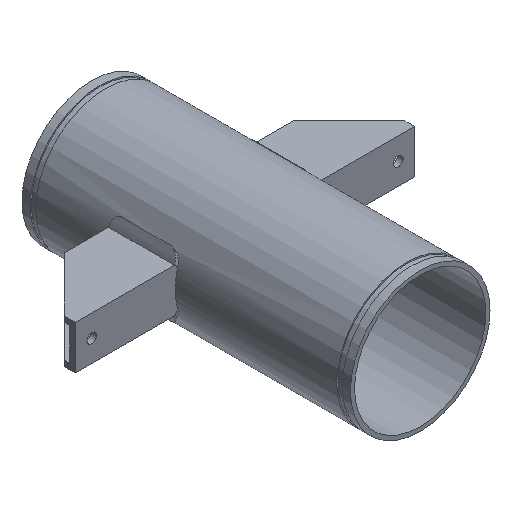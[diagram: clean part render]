
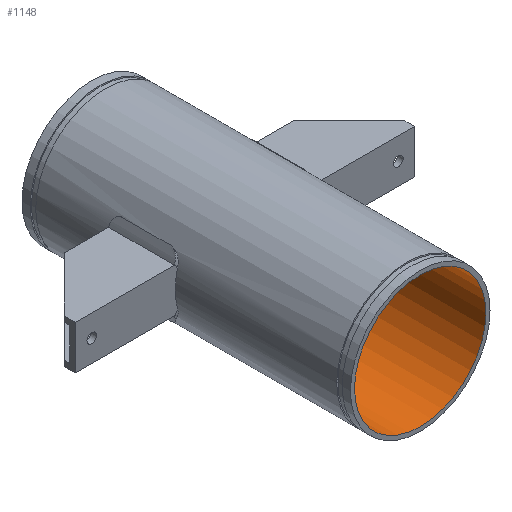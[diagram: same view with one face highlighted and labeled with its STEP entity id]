
A CAD part, isometric view. The second image highlights one B-rep face of the part: STEP entity #1148.
In plain terms, the highlighted cylindrical face has radius 152.4 mm (diameter 304.8 mm), a full revolution.
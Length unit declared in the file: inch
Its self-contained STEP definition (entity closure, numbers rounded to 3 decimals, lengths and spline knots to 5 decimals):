
#116=CIRCLE('',#1251,6.);
#117=CIRCLE('',#1252,6.);
#118=CIRCLE('',#1253,6.);
#119=CIRCLE('',#1254,6.);
#172=FACE_OUTER_BOUND('',#233,.T.);
#233=EDGE_LOOP('',(#927,#928,#929,#930,#931,#932));
#339=LINE('',#2134,#432);
#432=VECTOR('',#1513,6.);
#547=VERTEX_POINT('',#2130);
#548=VERTEX_POINT('',#2131);
#549=VERTEX_POINT('',#2133);
#550=VERTEX_POINT('',#2135);
#689=EDGE_CURVE('',#547,#548,#116,.T.);
#690=EDGE_CURVE('',#548,#549,#339,.T.);
#691=EDGE_CURVE('',#550,#549,#117,.T.);
#692=EDGE_CURVE('',#549,#550,#118,.T.);
#693=EDGE_CURVE('',#548,#547,#119,.T.);
#927=ORIENTED_EDGE('',*,*,#689,.T.);
#928=ORIENTED_EDGE('',*,*,#690,.T.);
#929=ORIENTED_EDGE('',*,*,#691,.F.);
#930=ORIENTED_EDGE('',*,*,#692,.F.);
#931=ORIENTED_EDGE('',*,*,#690,.F.);
#932=ORIENTED_EDGE('',*,*,#693,.T.);
#1047=CYLINDRICAL_SURFACE('',#1250,6.);
#1148=ADVANCED_FACE('',(#172),#1047,.F.);
#1250=AXIS2_PLACEMENT_3D('',#2129,#1509,#1510);
#1251=AXIS2_PLACEMENT_3D('',#2132,#1511,#1512);
#1252=AXIS2_PLACEMENT_3D('',#2136,#1514,#1515);
#1253=AXIS2_PLACEMENT_3D('',#2137,#1516,#1517);
#1254=AXIS2_PLACEMENT_3D('',#2138,#1518,#1519);
#1509=DIRECTION('center_axis',(0.,-1.,0.));
#1510=DIRECTION('ref_axis',(1.,0.,0.));
#1511=DIRECTION('center_axis',(0.,-1.,0.));
#1512=DIRECTION('ref_axis',(1.,0.,0.));
#1513=DIRECTION('',(0.,1.,0.));
#1514=DIRECTION('center_axis',(0.,-1.,0.));
#1515=DIRECTION('ref_axis',(1.,0.,0.));
#1516=DIRECTION('center_axis',(0.,-1.,0.));
#1517=DIRECTION('ref_axis',(1.,0.,0.));
#1518=DIRECTION('center_axis',(0.,-1.,0.));
#1519=DIRECTION('ref_axis',(1.,0.,0.));
#2129=CARTESIAN_POINT('Origin',(0.,0.,0.));
#2130=CARTESIAN_POINT('',(6.,-15.,0.));
#2131=CARTESIAN_POINT('',(-6.,-15.,0.));
#2132=CARTESIAN_POINT('Origin',(0.,-15.,0.));
#2133=CARTESIAN_POINT('',(-6.,15.,0.));
#2134=CARTESIAN_POINT('',(-6.,0.,0.));
#2135=CARTESIAN_POINT('',(6.,15.,0.));
#2136=CARTESIAN_POINT('Origin',(0.,15.,0.));
#2137=CARTESIAN_POINT('Origin',(0.,15.,0.));
#2138=CARTESIAN_POINT('Origin',(0.,-15.,0.));
